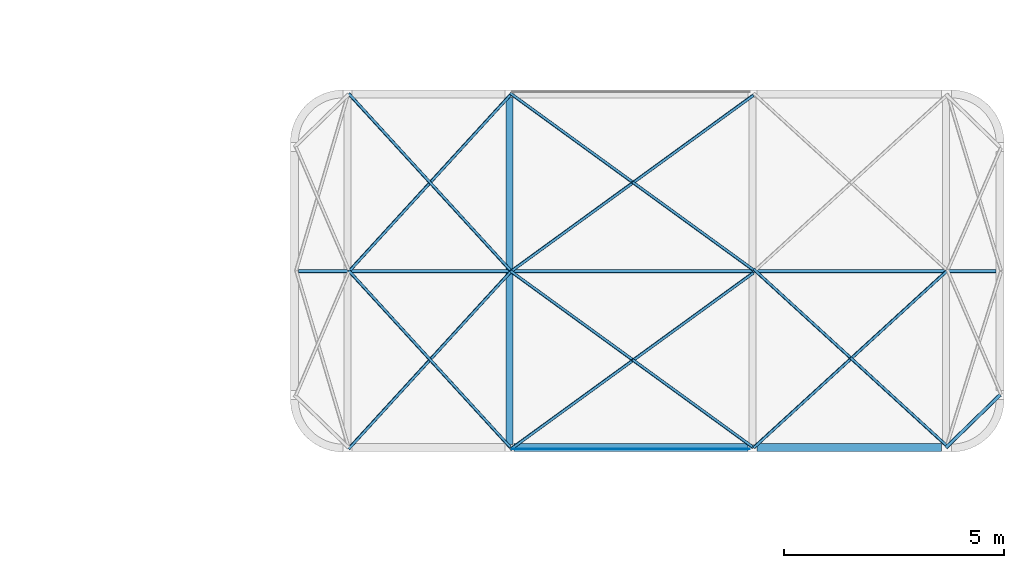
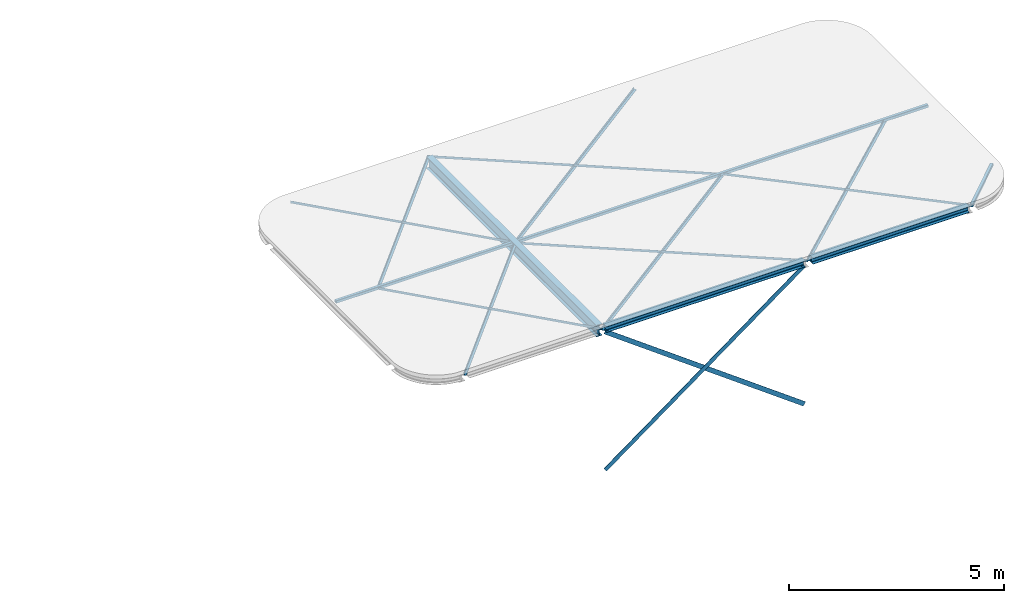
# One storey, part 3 of 14: 17 beams.
"""IFC2X3 building model written with IfcOpenShell, lengths in millimetres."""

from ifc_helpers import new_model, entity, si_unit, converted_unit, derived_unit, direction, frame, frame_2d, origin, origin_2d_with_axis, place, context, subcontext, project, spatial, polyline, circle_curve, parameter, trimmed, segment, composite_curve, rectangle, i_section, outline, extrude, material, type_object, element, save


model = new_model("IFC2X3")

# Units and contexts
model_context = context("Model", 3, precision=0.01, world=origin(), true_north=direction((6.123031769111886e-17, 1.0)))
body_context = subcontext(model_context, "Body", "Model", "MODEL_VIEW")
ifc_project = project(units=[si_unit("LENGTHUNIT", "METRE", prefix="MILLI"), si_unit("AREAUNIT", "SQUARE_METRE"), si_unit("VOLUMEUNIT", "CUBIC_METRE"), derived_unit("MASSDENSITYUNIT", [(si_unit("MASSUNIT", "GRAM", prefix="KILO"), 1), (si_unit("LENGTHUNIT", "METRE"), -3)]), si_unit("MASSUNIT", "GRAM", prefix="KILO"), converted_unit("PLANEANGLEUNIT", "DEGREE", entity("IfcPlaneAngleMeasure", 0.017453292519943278), si_unit("PLANEANGLEUNIT", "RADIAN"), dimensions=[0, 0, 0, 0, 0, 0, 0])], contexts=[model_context])

# Site, building, storey
site_placement = place(None, origin())
site = spatial("IfcSite", under=ifc_project, at=site_placement, Name="Default", CompositionType="ELEMENT")
building_placement = place(site_placement, origin())
building = spatial("IfcBuilding", under=site, at=building_placement, Name="AT constructie", CompositionType="ELEMENT")
storey_placement = place(building_placement, frame((0.0, 0.0, 12043.0)))
storey = spatial("IfcBuildingStorey", under=building, at=storey_placement, Name="03 derde verdieping", CompositionType="ELEMENT", Elevation=12043.0)

# Beams
ifc_material = material(Name="h2_staal_S355")
beam_type_1 = type_object("IfcBeamType", Name="balk HE_gen_HEA180", PredefinedType="NOTDEFINED")
beam_1_placement = place(storey_placement, frame((94846.87463111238, 23161.043508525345, 0.0), z_axis=(0.0, 0.0, 1.0), x_axis=(-1.0, 0.0, 0.0)))
element("IfcBeam", 1, at=beam_1_placement, inside=storey, type_object=beam_type_1, material=ifc_material, Name="NLRS_28_SF_LIB_balk HEA_gen_AT:balk HE_gen_HEA180", ObjectType="NLRS_28_SF_LIB_balk HEA_gen_AT:balk HE_gen_HEA180", context=body_context, shape_type="SweptSolid", body=[
    extrude(i_section(OverallWidth=180.0000000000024, OverallDepth=171.0000000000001, WebThickness=5.999999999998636, FlangeThickness=9.500000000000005, FilletRadius=15.000000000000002, at=frame_2d((4.334310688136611e-12, 0.0), x_axis=(1.0, 0.0))), frame((2.6999999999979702, -90.0, -85.50000000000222), z_axis=(1.0, 0.0, 0.0), x_axis=(0.0, -1.0, 0.0)), (0.0, 0.0, 1.0), 5334.099999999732),
])
beam_2_placement = place(storey_placement, frame((99266.87463111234, 23161.043508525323, 0.0), z_axis=(0.0, 0.0, 1.0), x_axis=(-1.0, 0.0, 0.0)))
element("IfcBeam", 2, at=beam_2_placement, inside=storey, type_object=beam_type_1, material=ifc_material, Name="NLRS_28_SF_LIB_balk HEA_gen_AT:balk HE_gen_HEA180", ObjectType="NLRS_28_SF_LIB_balk HEA_gen_AT:balk HE_gen_HEA180", context=body_context, shape_type="SweptSolid", body=[
    extrude(i_section(OverallWidth=180.0000000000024, OverallDepth=171.0000000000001, WebThickness=5.999999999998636, FlangeThickness=9.500000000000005, FilletRadius=15.000000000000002, at=frame_2d((-4.334310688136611e-12, 0.0), x_axis=(1.0, 0.0))), frame((22.69999999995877, -90.0, -85.50000000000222), z_axis=(1.0, 0.0, 0.0), x_axis=(0.0, -1.0, 0.0)), (0.0, 0.0, 1.0), 4194.599999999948),
])
beam_type_2 = type_object("IfcBeamType", Name="balk strip liggend_gen_120x10", PredefinedType="NOTDEFINED")
beam_3_placement = place(storey_placement, frame((89507.3746311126, 23226.04350852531, -176.34482473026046), z_axis=(0.5913336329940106, 0.0, 0.8064270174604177), x_axis=(0.8064270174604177, 0.0, -0.5913336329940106)))
element("IfcBeam", 3, at=beam_3_placement, inside=storey, type_object=beam_type_2, material=ifc_material, Name="NLRS_28_SF_LIB_balk strip_gen_AT:balk strip liggend_gen_120x10", ObjectType="NLRS_28_SF_LIB_balk strip_gen_AT:balk strip liggend_gen_120x10", context=body_context, shape_type="SweptSolid", body=[
    extrude(rectangle(XDim=119.99999999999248, YDim=10.000000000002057, at=origin_2d_with_axis()), frame((0.0, -5.0, 0.0), z_axis=(1.0, 0.0, 0.0), x_axis=(0.0, 0.0, -1.0)), (0.0, 0.0, 1.0), 6621.18193511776),
])
beam_4_placement = place(storey_placement, frame((94846.8746311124, 23226.04350852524, -170.41491895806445), z_axis=(-0.591904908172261, 0.0, 0.8060078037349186), x_axis=(-0.8060078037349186, 0.0, -0.591904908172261)))
element("IfcBeam", 4, at=beam_4_placement, inside=storey, type_object=beam_type_2, material=ifc_material, Name="NLRS_28_SF_LIB_balk strip_gen_AT:balk strip liggend_gen_120x10", ObjectType="NLRS_28_SF_LIB_balk strip_gen_AT:balk strip liggend_gen_120x10", context=body_context, shape_type="SweptSolid", body=[
    extrude(rectangle(XDim=119.99999999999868, YDim=10.000000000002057, at=frame_2d((0.0, -2.1658230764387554e-12), x_axis=(1.0, 0.0))), frame((0.0, 5.0, 0.0), z_axis=(1.0, 0.0, 0.0), x_axis=(0.0, 0.0, -1.0)), (0.0, 0.0, 1.0), 6624.625686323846),
])
beam_type_3 = type_object("IfcBeamType", Name="balk_gen_K80x80x4", PredefinedType="NOTDEFINED")
beam_5_placement = place(storey_placement, frame((84521.87463111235, 27271.04350852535, 0.0)))
element("IfcBeam", 5, at=beam_5_placement, inside=storey, type_object=beam_type_3, material=ifc_material, Name="NLRS_28_SF_LIB_balk koker vierkant_gen_AT:balk_gen_K80x80x4", ObjectType="NLRS_28_SF_LIB_balk koker vierkant_gen_AT:balk_gen_K80x80x4", context=body_context, shape_type="SweptSolid", body=[
    extrude(outline(composite_curve([segment(polyline([(-31.0, -40.0), (31.0, -40.0)]), True, "CONTINUOUS"), segment(trimmed(circle_curve(frame_2d((31.0, -31.0), x_axis=(0.0, -1.0)), 9.0), [parameter(359.9999999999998)], [parameter(89.99999999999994)], True, "PARAMETER"), True, "CONTINUOUS"), segment(polyline([(40.0, -31.0), (40.0, 31.0)]), True, "CONTINUOUS"), segment(trimmed(circle_curve(frame_2d((31.0, 31.0), x_axis=(0.0, -1.0)), 9.0), [parameter(90.0000000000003)], [parameter(180.00000000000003)], True, "PARAMETER"), True, "CONTINUOUS"), segment(polyline([(31.0, 40.0), (-31.0, 40.0)]), True, "CONTINUOUS"), segment(trimmed(circle_curve(frame_2d((-31.0, 31.0), x_axis=(0.0, -1.0)), 9.0), [parameter(179.99999999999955)], [parameter(269.9999999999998)], True, "PARAMETER"), True, "CONTINUOUS"), segment(polyline([(-40.0, 31.0), (-40.0, -31.0)]), True, "CONTINUOUS"), segment(trimmed(circle_curve(frame_2d((-31.0, -31.0), x_axis=(0.0, -1.0)), 9.0), [parameter(270.0000000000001)], [parameter(1.0177774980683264e-13)], True, "PARAMETER"), True, "CONTINUOUS")], self_intersect=False), holes=[composite_curve([segment(trimmed(circle_curve(frame_2d((-31.0, 31.0), x_axis=(0.0, -1.0)), 5.0), [parameter(180.0000000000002)], [parameter(270.0000000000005)], True, "PARAMETER"), False, "CONTINUOUS"), segment(polyline([(-31.0, 36.0), (31.0, 36.0)]), True, "CONTINUOUS"), segment(trimmed(circle_curve(frame_2d((31.0, 31.0), x_axis=(0.0, -1.0)), 5.0), [parameter(90.0000000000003)], [parameter(179.99999999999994)], True, "PARAMETER"), False, "CONTINUOUS"), segment(polyline([(36.0, 31.0), (36.0, -31.0)]), True, "CONTINUOUS"), segment(trimmed(circle_curve(frame_2d((31.0, -31.0), x_axis=(0.0, -1.0)), 5.0), [parameter(2.0355549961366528e-13)], [parameter(90.00000000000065)], True, "PARAMETER"), False, "CONTINUOUS"), segment(polyline([(31.0, -36.0), (-31.0, -36.0)]), True, "CONTINUOUS"), segment(trimmed(circle_curve(frame_2d((-31.0, -31.0), x_axis=(0.0, -1.0)), 5.0), [parameter(269.99999999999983)], [parameter(1.5266662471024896e-13)], True, "PARAMETER"), False, "CONTINUOUS"), segment(polyline([(-36.0, -31.0), (-36.0, 31.0)]), True, "CONTINUOUS")], self_intersect=False)]), frame((90.16613636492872, 0.0, -60.0), z_axis=(1.0, 0.0, 0.0), x_axis=(0.0, 0.0, -1.0)), (0.0, 0.0, 1.0), 15874.833863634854),
])
beam_6_placement = place(storey_placement, frame((99343.87463111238, 23249.553335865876, 0.0), z_axis=(0.0, 0.0, 1.0), x_axis=(0.7165996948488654, 0.6974846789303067, 0.0)))
element("IfcBeam", 6, at=beam_6_placement, inside=storey, type_object=beam_type_3, material=ifc_material, Name="NLRS_28_SF_LIB_balk koker vierkant_gen_AT:balk_gen_K80x80x4", ObjectType="NLRS_28_SF_LIB_balk koker vierkant_gen_AT:balk_gen_K80x80x4", context=body_context, shape_type="SweptSolid", body=[
    extrude(outline(composite_curve([segment(trimmed(circle_curve(frame_2d((31.0, 31.0), x_axis=(1.0, 0.0)), 9.0), [parameter(359.9999999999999)], [parameter(89.99999999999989)], True, "PARAMETER"), True, "CONTINUOUS"), segment(polyline([(31.0, 40.0), (-31.0, 40.0)]), True, "CONTINUOUS"), segment(trimmed(circle_curve(frame_2d((-31.0, 31.0), x_axis=(1.0, 0.0)), 9.0), [parameter(90.00000000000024)], [parameter(180.00000000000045)], True, "PARAMETER"), True, "CONTINUOUS"), segment(polyline([(-40.0, 31.0), (-40.0, -31.0)]), True, "CONTINUOUS"), segment(trimmed(circle_curve(frame_2d((-31.0, -31.0), x_axis=(1.0, 0.0)), 9.0), [parameter(179.99999999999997)], [parameter(269.9999999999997)], True, "PARAMETER"), True, "CONTINUOUS"), segment(polyline([(-31.0, -40.0), (31.0, -40.0)]), True, "CONTINUOUS"), segment(trimmed(circle_curve(frame_2d((31.0, -31.0), x_axis=(1.0, 0.0)), 9.0), [parameter(270.00000000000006)], [parameter(2.544443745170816e-13)], True, "PARAMETER"), True, "CONTINUOUS"), segment(polyline([(40.0, -31.0), (40.0, 31.0)]), True, "CONTINUOUS")], self_intersect=False), holes=[composite_curve([segment(polyline([(-31.0, 36.0), (31.0, 36.0)]), True, "CONTINUOUS"), segment(trimmed(circle_curve(frame_2d((31.0, 31.0), x_axis=(1.0, 0.0)), 5.0), [parameter(359.99999999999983)], [parameter(90.00000000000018)], True, "PARAMETER"), False, "CONTINUOUS"), segment(polyline([(36.0, 31.0), (36.0, -31.0)]), True, "CONTINUOUS"), segment(trimmed(circle_curve(frame_2d((31.0, -31.0), x_axis=(1.0, 0.0)), 5.0), [parameter(269.9999999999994)], [parameter(359.9999999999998)], True, "PARAMETER"), False, "CONTINUOUS"), segment(polyline([(31.0, -36.0), (-31.0, -36.0)]), True, "CONTINUOUS"), segment(trimmed(circle_curve(frame_2d((-31.0, -31.0), x_axis=(1.0, 0.0)), 5.0), [parameter(180.00000000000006)], [parameter(269.9999999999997)], True, "PARAMETER"), False, "CONTINUOUS"), segment(polyline([(-36.0, -31.0), (-36.0, 31.0)]), True, "CONTINUOUS"), segment(trimmed(circle_curve(frame_2d((-31.0, 31.0), x_axis=(1.0, 0.0)), 5.0), [parameter(89.99999999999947)], [parameter(179.9999999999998)], True, "PARAMETER"), False, "CONTINUOUS")], self_intersect=False)]), frame((0.0, 0.0, -60.0), z_axis=(1.0, 0.0, 0.0), x_axis=(0.0, 1.0, 0.0)), (0.0, 0.0, 1.0), 1726.905563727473),
])
beam_type_4 = type_object("IfcBeamType", Name="balk IPE_gen_330", PredefinedType="NOTDEFINED")
beam_7_placement = place(storey_placement, frame((89407.3746311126, 23322.043549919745, 0.0), z_axis=(0.0, 0.0, 1.0), x_axis=(0.0, 1.0, 0.0)))
element("IfcBeam", 7, at=beam_7_placement, inside=storey, type_object=beam_type_4, material=ifc_material, Name="NLRS_28_SF_LIB_balk IPE_gen_AT:balk IPE_gen_330", ObjectType="NLRS_28_SF_LIB_balk IPE_gen_AT:balk IPE_gen_330", context=body_context, shape_type="SweptSolid", body=[
    extrude(outline(composite_curve([segment(polyline([(153.49999999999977, -80.0), (165.0, -80.0)]), True, "CONTINUOUS"), segment(polyline([(165.0, -80.0), (165.0, 80.0)]), True, "CONTINUOUS"), segment(polyline([(165.0, 80.0), (153.49999999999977, 80.0)]), True, "CONTINUOUS"), segment(polyline([(153.49999999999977, 80.0), (153.49999999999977, 21.75000000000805)]), True, "CONTINUOUS"), segment(trimmed(circle_curve(frame_2d((135.50000000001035, 21.75000000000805), x_axis=(1.0, 0.0)), 17.999999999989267), [parameter(269.99999999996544)], [parameter(0.0)], True, "PARAMETER"), False, "CONTINUOUS"), segment(polyline([(135.4999999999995, 3.750000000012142), (-135.49999999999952, 3.750000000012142)]), True, "CONTINUOUS"), segment(trimmed(circle_curve(frame_2d((-135.50000000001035, 21.75000000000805), x_axis=(0.0, -1.0)), 17.999999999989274), [parameter(269.99999999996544)], [parameter(0.0)], True, "PARAMETER"), False, "CONTINUOUS"), segment(polyline([(-153.49999999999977, 21.75000000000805), (-153.49999999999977, 80.0)]), True, "CONTINUOUS"), segment(polyline([(-153.49999999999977, 80.0), (-165.0, 80.0)]), True, "CONTINUOUS"), segment(polyline([(-165.0, 80.0), (-165.0, -80.0)]), True, "CONTINUOUS"), segment(polyline([(-165.0, -80.0), (-153.49999999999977, -80.0)]), True, "CONTINUOUS"), segment(polyline([(-153.49999999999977, -80.0), (-153.49999999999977, -21.749999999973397)]), True, "CONTINUOUS"), segment(trimmed(circle_curve(frame_2d((-135.50000000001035, -21.749999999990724), x_axis=(-1.0, 0.0)), 17.999999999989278), [parameter(269.99999999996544)], [parameter(0.0)], True, "PARAMETER"), False, "CONTINUOUS"), segment(polyline([(-135.49999999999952, -3.7499999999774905), (135.4999999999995, -3.7499999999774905)]), True, "CONTINUOUS"), segment(trimmed(circle_curve(frame_2d((135.50000000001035, -21.749999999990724), x_axis=(0.0, 1.0)), 17.999999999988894), [parameter(269.99999999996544)], [parameter(0.0)], True, "PARAMETER"), False, "CONTINUOUS"), segment(polyline([(153.49999999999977, -21.749999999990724), (153.49999999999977, -80.0)]), True, "CONTINUOUS")], self_intersect=False)), frame((0.0, 0.0, -165.0), z_axis=(1.0, 0.0, 0.0), x_axis=(0.0, 0.0, -1.0)), (0.0, 0.0, 1.0), 7897.999958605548),
])
beam_type_5 = type_object("IfcBeamType", Name="balk_gen_L70x70x7", PredefinedType="NOTDEFINED")
beam_8_placement = place(storey_placement, frame((89407.3746311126, 27271.04350852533, 0.0), z_axis=(0.0, 0.0, 1.0), x_axis=(0.8089949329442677, 0.5878156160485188, 0.0)))
element("IfcBeam", 8, at=beam_8_placement, inside=storey, type_object=beam_type_5, material=ifc_material, Name="NLRS_28_SF_LIB_balk hoeklijn_gen_AT:balk_gen_L70x70x7", ObjectType="NLRS_28_SF_LIB_balk hoeklijn_gen_AT:balk_gen_L70x70x7", context=body_context, shape_type="SweptSolid", body=[
    extrude(outline(composite_curve([segment(polyline([(23.94444444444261, -43.55555555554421), (26.44444444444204, -43.55555555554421)]), True, "CONTINUOUS"), segment(polyline([(26.44444444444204, -43.55555555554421), (26.44444444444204, 26.44444444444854)]), True, "CONTINUOUS"), segment(polyline([(26.44444444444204, 26.44444444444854), (-43.55555555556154, 26.44444444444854)]), True, "CONTINUOUS"), segment(polyline([(-43.55555555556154, 26.44444444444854), (-43.55555555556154, 23.944444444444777)]), True, "CONTINUOUS"), segment(trimmed(circle_curve(frame_2d((-39.05555555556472, 23.944444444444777), x_axis=(-1.0, 0.0)), 4.4999999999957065), [parameter(0.0)], [parameter(90.00000000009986)], True, "PARAMETER"), True, "CONTINUOUS"), segment(polyline([(-39.055555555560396, 19.4444444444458), (10.44444444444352, 19.4444444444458)]), True, "CONTINUOUS"), segment(trimmed(circle_curve(frame_2d((10.444444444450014, 10.444444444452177), x_axis=(0.0, 1.0)), 8.999999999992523), [parameter(269.99999999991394)], [parameter(0.0)], True, "PARAMETER"), False, "CONTINUOUS"), segment(polyline([(19.444444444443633, 10.444444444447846), (19.444444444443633, -39.055555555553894)]), True, "CONTINUOUS"), segment(trimmed(circle_curve(frame_2d((23.94444444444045, -39.055555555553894), x_axis=(-1.0, 0.0)), 4.499999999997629), [parameter(0.0)], [parameter(90.00000000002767)], True, "PARAMETER"), True, "CONTINUOUS")], self_intersect=False)), frame((0.0, -19.4444444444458, -73.55555555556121), z_axis=(1.0, 0.0, 0.0), x_axis=(0.0, 0.0, -1.0)), (0.0, 0.0, 1.0), 6847.3852856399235),
])
beam_9_placement = place(storey_placement, frame((94946.87463111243, 27271.043508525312, 0.0), z_axis=(0.0, 0.0, 1.0), x_axis=(-0.8089949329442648, 0.587815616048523, 0.0)))
element("IfcBeam", 9, at=beam_9_placement, inside=storey, type_object=beam_type_5, material=ifc_material, Name="NLRS_28_SF_LIB_balk hoeklijn_gen_AT:balk_gen_L70x70x7", ObjectType="NLRS_28_SF_LIB_balk hoeklijn_gen_AT:balk_gen_L70x70x7", context=body_context, shape_type="SweptSolid", body=[
    extrude(outline(composite_curve([segment(polyline([(23.94444444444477, -43.55555555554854), (26.4444444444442, -43.55555555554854)]), True, "CONTINUOUS"), segment(polyline([(26.4444444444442, -43.55555555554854), (26.4444444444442, 26.44444444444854)]), True, "CONTINUOUS"), segment(polyline([(26.4444444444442, 26.44444444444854), (-43.55555555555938, 26.44444444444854)]), True, "CONTINUOUS"), segment(polyline([(-43.55555555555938, 26.44444444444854), (-43.55555555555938, 23.944444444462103)]), True, "CONTINUOUS"), segment(trimmed(circle_curve(frame_2d((-39.05555555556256, 23.944444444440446), x_axis=(-1.0, 0.0)), 4.499999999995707), [parameter(0.0)], [parameter(90.00000000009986)], True, "PARAMETER"), True, "CONTINUOUS"), segment(polyline([(-39.055555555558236, 19.44444444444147), (10.44444444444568, 19.44444444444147)]), True, "CONTINUOUS"), segment(trimmed(circle_curve(frame_2d((10.444444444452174, 10.44444444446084), x_axis=(0.0, 1.0)), 8.999999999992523), [parameter(269.99999999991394)], [parameter(0.0)], True, "PARAMETER"), False, "CONTINUOUS"), segment(polyline([(19.444444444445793, 10.444444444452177), (19.444444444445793, -39.055555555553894)]), True, "CONTINUOUS"), segment(trimmed(circle_curve(frame_2d((23.94444444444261, -39.05555555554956), x_axis=(-1.0, 0.0)), 4.499999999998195), [parameter(0.0)], [parameter(90.00000000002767)], True, "PARAMETER"), True, "CONTINUOUS")], self_intersect=False)), frame((0.0, -19.44444444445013, -73.55555555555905), z_axis=(1.0, 0.0, 0.0), x_axis=(0.0, 0.0, -1.0)), (0.0, 0.0, 1.0), 6847.385285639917),
])
beam_10_placement = place(storey_placement, frame((94946.87463111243, 23268.695366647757, 0.0), z_axis=(0.0, 0.0, 1.0), x_axis=(0.7378498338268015, 0.6749649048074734, 0.0)))
element("IfcBeam", 10, at=beam_10_placement, inside=storey, type_object=beam_type_5, material=ifc_material, Name="NLRS_28_SF_LIB_balk hoeklijn_gen_AT:balk_gen_L70x70x7", ObjectType="NLRS_28_SF_LIB_balk hoeklijn_gen_AT:balk_gen_L70x70x7", context=body_context, shape_type="SweptSolid", body=[
    extrude(outline(composite_curve([segment(polyline([(23.94444444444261, -43.55555555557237), (26.44444444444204, -43.55555555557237)]), True, "CONTINUOUS"), segment(polyline([(26.44444444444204, -43.55555555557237), (26.44444444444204, 26.444444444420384)]), True, "CONTINUOUS"), segment(polyline([(26.44444444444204, 26.444444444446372), (-43.55555555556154, 26.444444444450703)]), True, "CONTINUOUS"), segment(polyline([(-43.55555555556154, 26.444444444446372), (-43.55555555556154, 23.944444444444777)]), True, "CONTINUOUS"), segment(trimmed(circle_curve(frame_2d((-39.05555555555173, 23.944444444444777), x_axis=(-1.0, 0.0)), 4.500000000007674), [parameter(0.0)], [parameter(89.99999999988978)], True, "PARAMETER"), True, "CONTINUOUS"), segment(polyline([(-39.055555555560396, 19.44444444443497), (10.44444444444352, 19.44444444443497)]), True, "CONTINUOUS"), segment(trimmed(circle_curve(frame_2d((10.444444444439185, 10.44444444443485), x_axis=(0.0, 1.0)), 9.000000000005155), [parameter(270.0000000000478)], [parameter(0.0)], True, "PARAMETER"), False, "CONTINUOUS"), segment(polyline([(19.444444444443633, 10.444444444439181), (19.444444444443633, -39.055555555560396)]), True, "CONTINUOUS"), segment(trimmed(circle_curve(frame_2d((23.944444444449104, -39.05555555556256), x_axis=(-1.0, 0.0)), 4.500000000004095), [parameter(0.0)], [parameter(89.99999999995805)], True, "PARAMETER"), True, "CONTINUOUS")], self_intersect=False)), frame((0.0, -19.444444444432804, -73.55555555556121), z_axis=(1.0, 0.0, 0.0), x_axis=(0.0, 0.0, -1.0)), (0.0, 0.0, 1.0), 5963.273010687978),
])
beam_11_placement = place(storey_placement, frame((99343.03200209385, 23271.88178874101, 0.0), z_axis=(0.0, 0.0, 1.0), x_axis=(-0.7378223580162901, 0.6749949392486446, 0.0)))
element("IfcBeam", 11, at=beam_11_placement, inside=storey, type_object=beam_type_5, material=ifc_material, Name="NLRS_28_SF_LIB_balk hoeklijn_gen_AT:balk_gen_L70x70x7", ObjectType="NLRS_28_SF_LIB_balk hoeklijn_gen_AT:balk_gen_L70x70x7", context=body_context, shape_type="SweptSolid", body=[
    extrude(outline(composite_curve([segment(polyline([(23.94444444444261, -43.5555555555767), (26.44444444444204, -43.5555555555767)]), True, "CONTINUOUS"), segment(polyline([(26.44444444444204, -43.5555555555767), (26.44444444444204, 26.444444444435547)]), True, "CONTINUOUS"), segment(polyline([(26.44444444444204, 26.444444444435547), (-43.55555555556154, 26.444444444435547)]), True, "CONTINUOUS"), segment(polyline([(-43.55555555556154, 26.444444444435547), (-43.55555555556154, 23.944444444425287)]), True, "CONTINUOUS"), segment(trimmed(circle_curve(frame_2d((-39.05555555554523, 23.944444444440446), x_axis=(-1.0, 0.0)), 4.5000000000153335), [parameter(0.0)], [parameter(89.99999999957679)], True, "PARAMETER"), True, "CONTINUOUS"), segment(polyline([(-39.055555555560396, 19.444444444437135), (10.44444444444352, 19.444444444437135)]), True, "CONTINUOUS"), segment(trimmed(circle_curve(frame_2d((10.444444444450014, 10.444444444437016), x_axis=(0.0, 1.0)), 8.999999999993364), [parameter(269.99999999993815)], [parameter(0.0)], True, "PARAMETER"), False, "CONTINUOUS"), segment(polyline([(19.444444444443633, 10.444444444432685), (19.444444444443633, -39.05555555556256)]), True, "CONTINUOUS"), segment(trimmed(circle_curve(frame_2d((23.944444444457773, -39.05555555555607), x_axis=(-1.0, 0.0)), 4.5000000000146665), [parameter(0.0)], [parameter(89.99999999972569)], True, "PARAMETER"), True, "CONTINUOUS")], self_intersect=False)), frame((0.0, -19.444444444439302, -73.55555555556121), z_axis=(1.0, 0.0, 0.0), x_axis=(0.0, 0.0, -1.0)), (0.0, 0.0, 1.0), 5958.287009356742),
])
beam_12_placement = place(storey_placement, frame((89407.3746311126, 23228.792881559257, 0.0), z_axis=(0.0, 0.0, 1.0), x_axis=(0.8089949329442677, 0.5878156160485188, 0.0)))
element("IfcBeam", 12, at=beam_12_placement, inside=storey, type_object=beam_type_5, material=ifc_material, Name="NLRS_28_SF_LIB_balk hoeklijn_gen_AT:balk_gen_L70x70x7", ObjectType="NLRS_28_SF_LIB_balk hoeklijn_gen_AT:balk_gen_L70x70x7", context=body_context, shape_type="SweptSolid", body=[
    extrude(outline(composite_curve([segment(polyline([(23.94444444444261, -43.55555555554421), (26.44444444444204, -43.55555555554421)]), True, "CONTINUOUS"), segment(polyline([(26.44444444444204, -43.55555555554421), (26.44444444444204, 26.444444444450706)]), True, "CONTINUOUS"), segment(polyline([(26.44444444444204, 26.444444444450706), (-43.55555555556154, 26.444444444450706)]), True, "CONTINUOUS"), segment(polyline([(-43.55555555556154, 26.444444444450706), (-43.55555555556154, 23.944444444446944)]), True, "CONTINUOUS"), segment(trimmed(circle_curve(frame_2d((-39.05555555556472, 23.94444444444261), x_axis=(-1.0, 0.0)), 4.4999999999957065), [parameter(0.0)], [parameter(90.00000000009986)], True, "PARAMETER"), True, "CONTINUOUS"), segment(polyline([(-39.055555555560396, 19.444444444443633), (10.44444444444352, 19.444444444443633)]), True, "CONTINUOUS"), segment(trimmed(circle_curve(frame_2d((10.444444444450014, 10.444444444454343), x_axis=(0.0, 1.0)), 8.999999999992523), [parameter(269.99999999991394)], [parameter(0.0)], True, "PARAMETER"), False, "CONTINUOUS"), segment(polyline([(19.444444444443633, 10.444444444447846), (19.444444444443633, -39.055555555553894)]), True, "CONTINUOUS"), segment(trimmed(circle_curve(frame_2d((23.94444444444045, -39.05555555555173), x_axis=(-1.0, 0.0)), 4.499999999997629), [parameter(0.0)], [parameter(90.00000000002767)], True, "PARAMETER"), True, "CONTINUOUS")], self_intersect=False)), frame((0.0, -19.4444444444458, -73.55555555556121), z_axis=(1.0, 0.0, 0.0), x_axis=(0.0, 0.0, -1.0)), (0.0, 0.0, 1.0), 6847.3852856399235),
])
beam_13_placement = place(storey_placement, frame((94946.87463111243, 23228.792881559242, 0.0), z_axis=(0.0, 0.0, 1.0), x_axis=(-0.8089949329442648, 0.587815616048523, 0.0)))
element("IfcBeam", 13, at=beam_13_placement, inside=storey, type_object=beam_type_5, material=ifc_material, Name="NLRS_28_SF_LIB_balk hoeklijn_gen_AT:balk_gen_L70x70x7", ObjectType="NLRS_28_SF_LIB_balk hoeklijn_gen_AT:balk_gen_L70x70x7", context=body_context, shape_type="SweptSolid", body=[
    extrude(outline(composite_curve([segment(polyline([(23.94444444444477, -43.55555555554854), (26.4444444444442, -43.55555555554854)]), True, "CONTINUOUS"), segment(polyline([(26.4444444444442, -43.55555555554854), (26.4444444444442, 26.444444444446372)]), True, "CONTINUOUS"), segment(polyline([(26.4444444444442, 26.44444444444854), (-43.55555555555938, 26.44444444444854)]), True, "CONTINUOUS"), segment(polyline([(-43.55555555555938, 26.44444444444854), (-43.55555555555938, 23.9444444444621)]), True, "CONTINUOUS"), segment(trimmed(circle_curve(frame_2d((-39.05555555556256, 23.944444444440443), x_axis=(-1.0, 0.0)), 4.499999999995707), [parameter(0.0)], [parameter(90.00000000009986)], True, "PARAMETER"), True, "CONTINUOUS"), segment(polyline([(-39.055555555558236, 19.444444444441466), (10.44444444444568, 19.444444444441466)]), True, "CONTINUOUS"), segment(trimmed(circle_curve(frame_2d((10.444444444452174, 10.444444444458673), x_axis=(0.0, 1.0)), 8.999999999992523), [parameter(269.99999999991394)], [parameter(0.0)], True, "PARAMETER"), False, "CONTINUOUS"), segment(polyline([(19.444444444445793, 10.444444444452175), (19.444444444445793, -39.05555555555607)]), True, "CONTINUOUS"), segment(trimmed(circle_curve(frame_2d((23.94444444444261, -39.055555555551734), x_axis=(-1.0, 0.0)), 4.499999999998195), [parameter(0.0)], [parameter(90.00000000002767)], True, "PARAMETER"), True, "CONTINUOUS")], self_intersect=False)), frame((0.0, -19.444444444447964, -73.55555555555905), z_axis=(1.0, 0.0, 0.0), x_axis=(0.0, 0.0, -1.0)), (0.0, 0.0, 1.0), 6847.385285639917),
])
beam_14_placement = place(storey_placement, frame((85726.87463111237, 27271.043508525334, 0.0), z_axis=(0.0, 0.0, 1.0), x_axis=(0.6748191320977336, 0.7379831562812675, 0.0)))
element("IfcBeam", 14, at=beam_14_placement, inside=storey, type_object=beam_type_5, material=ifc_material, Name="NLRS_28_SF_LIB_balk hoeklijn_gen_AT:balk_gen_L70x70x7", ObjectType="NLRS_28_SF_LIB_balk hoeklijn_gen_AT:balk_gen_L70x70x7", context=body_context, shape_type="SweptSolid", body=[
    extrude(outline(composite_curve([segment(polyline([(23.94444444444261, -43.555555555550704), (26.44444444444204, -43.555555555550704)]), True, "CONTINUOUS"), segment(polyline([(26.44444444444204, -43.555555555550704), (26.44444444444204, 26.444444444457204)]), True, "CONTINUOUS"), segment(polyline([(26.44444444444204, 26.444444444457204), (-43.55555555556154, 26.444444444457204)]), True, "CONTINUOUS"), segment(polyline([(-43.55555555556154, 26.444444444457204), (-43.55555555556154, 23.944444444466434)]), True, "CONTINUOUS"), segment(trimmed(circle_curve(frame_2d((-39.05555555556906, 23.944444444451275), x_axis=(-1.0, 0.0)), 4.499999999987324), [parameter(0.0)], [parameter(90.00000000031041)], True, "PARAMETER"), True, "CONTINUOUS"), segment(polyline([(-39.055555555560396, 19.44444444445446), (10.44444444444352, 19.44444444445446)]), True, "CONTINUOUS"), segment(trimmed(circle_curve(frame_2d((10.44444444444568, 10.44444444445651), x_axis=(0.0, 1.0)), 8.999999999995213), [parameter(269.9999999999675)], [parameter(0.0)], True, "PARAMETER"), False, "CONTINUOUS"), segment(polyline([(19.444444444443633, 10.444444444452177), (19.444444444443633, -39.05555555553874)]), True, "CONTINUOUS"), segment(trimmed(circle_curve(frame_2d((23.94444444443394, -39.055555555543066), x_axis=(-1.0, 0.0)), 4.499999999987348), [parameter(0.0)], [parameter(90.00000000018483)], True, "PARAMETER"), True, "CONTINUOUS")], self_intersect=False)), frame((0.0, -19.444444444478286, -73.55555555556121), z_axis=(1.0, 0.0, 0.0), x_axis=(0.0, 0.0, -1.0)), (0.0, 0.0, 1.0), 5454.054019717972),
])
beam_15_placement = place(storey_placement, frame((89403.53200209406, 27274.229930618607, 0.0), z_axis=(0.0, 0.0, 1.0), x_axis=(-0.6749649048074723, 0.7378498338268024, 0.0)))
element("IfcBeam", 15, at=beam_15_placement, inside=storey, type_object=beam_type_5, material=ifc_material, Name="NLRS_28_SF_LIB_balk hoeklijn_gen_AT:balk_gen_L70x70x7", ObjectType="NLRS_28_SF_LIB_balk hoeklijn_gen_AT:balk_gen_L70x70x7", context=body_context, shape_type="SweptSolid", body=[
    extrude(outline(composite_curve([segment(polyline([(23.94444444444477, -43.55555555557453), (26.4444444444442, -43.55555555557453)]), True, "CONTINUOUS"), segment(polyline([(26.4444444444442, -43.55555555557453), (26.4444444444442, 26.44444444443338)]), True, "CONTINUOUS"), segment(polyline([(26.4444444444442, 26.44444444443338), (-43.55555555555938, 26.44444444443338)]), True, "CONTINUOUS"), segment(polyline([(-43.55555555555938, 26.44444444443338), (-43.55555555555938, 23.944444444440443)]), True, "CONTINUOUS"), segment(trimmed(circle_curve(frame_2d((-39.05555555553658, 23.944444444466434), x_axis=(-1.0, 0.0)), 4.500000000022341), [parameter(0.0)], [parameter(89.9999999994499)], True, "PARAMETER"), True, "CONTINUOUS"), segment(polyline([(-39.055555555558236, 19.444444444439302), (10.44444444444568, 19.444444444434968)]), True, "CONTINUOUS"), segment(trimmed(circle_curve(frame_2d((10.44444444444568, 10.444444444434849), x_axis=(0.0, 1.0)), 9.000000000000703), [parameter(270.00000000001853)], [parameter(0.0)], True, "PARAMETER"), False, "CONTINUOUS"), segment(polyline([(19.444444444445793, 10.444444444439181), (19.444444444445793, -39.05555555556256)]), True, "CONTINUOUS"), segment(trimmed(circle_curve(frame_2d((23.944444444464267, -39.05555555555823), x_axis=(-1.0, 0.0)), 4.500000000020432), [parameter(0.0)], [parameter(89.99999999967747)], True, "PARAMETER"), True, "CONTINUOUS")], self_intersect=False)), frame((0.0, -19.444444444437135, -73.55555555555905), z_axis=(1.0, 0.0, 0.0), x_axis=(0.0, 0.0, -1.0)), (0.0, 0.0, 1.0), 5442.36795841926),
])
beam_16_placement = place(storey_placement, frame((85726.87463111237, 23241.043508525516, 0.0), z_axis=(0.0, 0.0, 1.0), x_axis=(0.6748191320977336, 0.7379831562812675, 0.0)))
element("IfcBeam", 16, at=beam_16_placement, inside=storey, type_object=beam_type_5, material=ifc_material, Name="NLRS_28_SF_LIB_balk hoeklijn_gen_AT:balk_gen_L70x70x7", ObjectType="NLRS_28_SF_LIB_balk hoeklijn_gen_AT:balk_gen_L70x70x7", context=body_context, shape_type="SweptSolid", body=[
    extrude(outline(composite_curve([segment(polyline([(23.94444444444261, -43.55555555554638), (26.44444444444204, -43.55555555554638)]), True, "CONTINUOUS"), segment(polyline([(26.44444444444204, -43.55555555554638), (26.44444444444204, 26.444444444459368)]), True, "CONTINUOUS"), segment(polyline([(26.44444444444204, 26.444444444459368), (-43.55555555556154, 26.444444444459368)]), True, "CONTINUOUS"), segment(polyline([(-43.55555555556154, 26.444444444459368), (-43.55555555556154, 23.9444444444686)]), True, "CONTINUOUS"), segment(trimmed(circle_curve(frame_2d((-39.05555555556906, 23.94444444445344), x_axis=(-1.0, 0.0)), 4.499999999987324), [parameter(0.0)], [parameter(90.00000000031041)], True, "PARAMETER"), True, "CONTINUOUS"), segment(polyline([(-39.055555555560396, 19.44444444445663), (10.44444444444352, 19.44444444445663)]), True, "CONTINUOUS"), segment(trimmed(circle_curve(frame_2d((10.44444444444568, 10.444444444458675), x_axis=(0.0, 1.0)), 8.999999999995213), [parameter(269.9999999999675)], [parameter(0.0)], True, "PARAMETER"), False, "CONTINUOUS"), segment(polyline([(19.444444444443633, 10.44444444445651), (19.444444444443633, -39.055555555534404)]), True, "CONTINUOUS"), segment(trimmed(circle_curve(frame_2d((23.94444444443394, -39.0555555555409), x_axis=(-1.0, 0.0)), 4.499999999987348), [parameter(0.0)], [parameter(90.00000000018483)], True, "PARAMETER"), True, "CONTINUOUS")], self_intersect=False)), frame((0.0, -19.444444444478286, -73.55555555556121), z_axis=(1.0, 0.0, 0.0), x_axis=(0.0, 0.0, -1.0)), (0.0, 0.0, 1.0), 5454.054019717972),
])
beam_17_placement = place(storey_placement, frame((89403.53200209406, 23244.229930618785, 0.0), z_axis=(0.0, 0.0, 1.0), x_axis=(-0.6749649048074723, 0.7378498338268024, 0.0)))
element("IfcBeam", 17, at=beam_17_placement, inside=storey, type_object=beam_type_5, material=ifc_material, Name="NLRS_28_SF_LIB_balk hoeklijn_gen_AT:balk_gen_L70x70x7", ObjectType="NLRS_28_SF_LIB_balk hoeklijn_gen_AT:balk_gen_L70x70x7", context=body_context, shape_type="SweptSolid", body=[
    extrude(outline(composite_curve([segment(polyline([(23.94444444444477, -43.55555555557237), (26.4444444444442, -43.55555555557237)]), True, "CONTINUOUS"), segment(polyline([(26.4444444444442, -43.55555555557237), (26.4444444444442, 26.444444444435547)]), True, "CONTINUOUS"), segment(polyline([(26.4444444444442, 26.444444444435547), (-43.55555555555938, 26.444444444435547)]), True, "CONTINUOUS"), segment(polyline([(-43.55555555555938, 26.444444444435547), (-43.55555555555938, 23.94444444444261)]), True, "CONTINUOUS"), segment(trimmed(circle_curve(frame_2d((-39.05555555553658, 23.9444444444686), x_axis=(-1.0, 0.0)), 4.500000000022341), [parameter(0.0)], [parameter(89.9999999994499)], True, "PARAMETER"), True, "CONTINUOUS"), segment(polyline([(-39.055555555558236, 19.444444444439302), (10.44444444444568, 19.444444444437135)]), True, "CONTINUOUS"), segment(trimmed(circle_curve(frame_2d((10.44444444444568, 10.444444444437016), x_axis=(0.0, 1.0)), 9.000000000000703), [parameter(270.00000000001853)], [parameter(0.0)], True, "PARAMETER"), False, "CONTINUOUS"), segment(polyline([(19.444444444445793, 10.444444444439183), (19.444444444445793, -39.05555555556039)]), True, "CONTINUOUS"), segment(trimmed(circle_curve(frame_2d((23.944444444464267, -39.05555555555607), x_axis=(-1.0, 0.0)), 4.500000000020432), [parameter(0.0)], [parameter(89.99999999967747)], True, "PARAMETER"), True, "CONTINUOUS")], self_intersect=False)), frame((0.0, -19.444444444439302, -73.55555555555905), z_axis=(1.0, 0.0, 0.0), x_axis=(0.0, 0.0, -1.0)), (0.0, 0.0, 1.0), 5442.36795841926),
])

save(model, "model.ifc")
